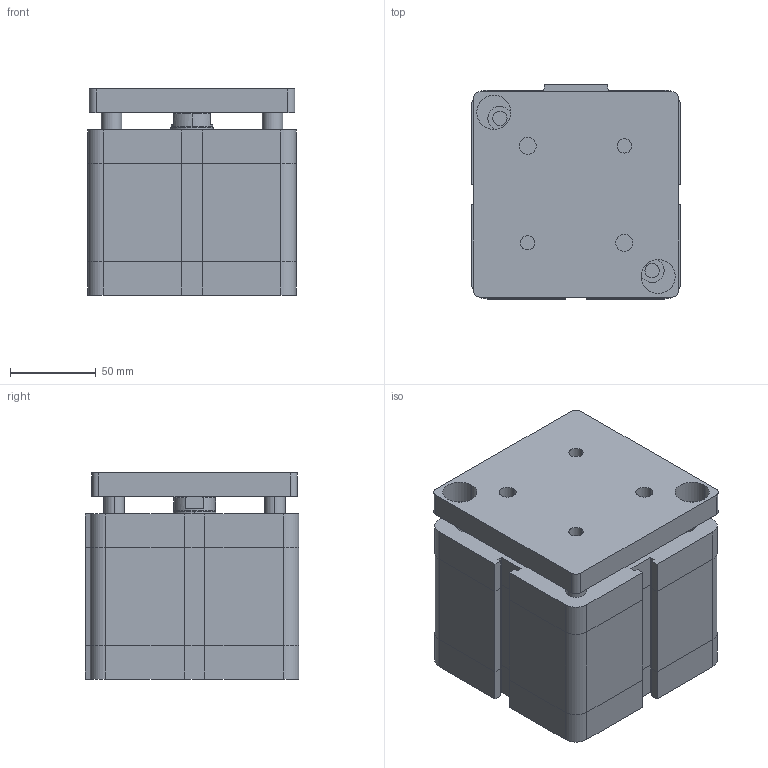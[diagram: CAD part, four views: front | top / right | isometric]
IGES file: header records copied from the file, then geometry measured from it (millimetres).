
Global section: file name: No Iges File Name specified; native system: Autodesk Inventor 2009; preprocessor: AutoDesk Inventor Iges Exporter R2009; author: maffial1; date: 20090420.201304; units: millimetre
Bounding box: 122 x 125 x 120.5 mm (x, y, z)
Volume: 1599702.3 mm3; surface area: 138856.4 mm2
Topology: 2 solids, 2 shells, 212 faces, 486 edges, 298 vertices
Faces by surface type: plane 111, bspline 67, cylinder 26, cone 8
